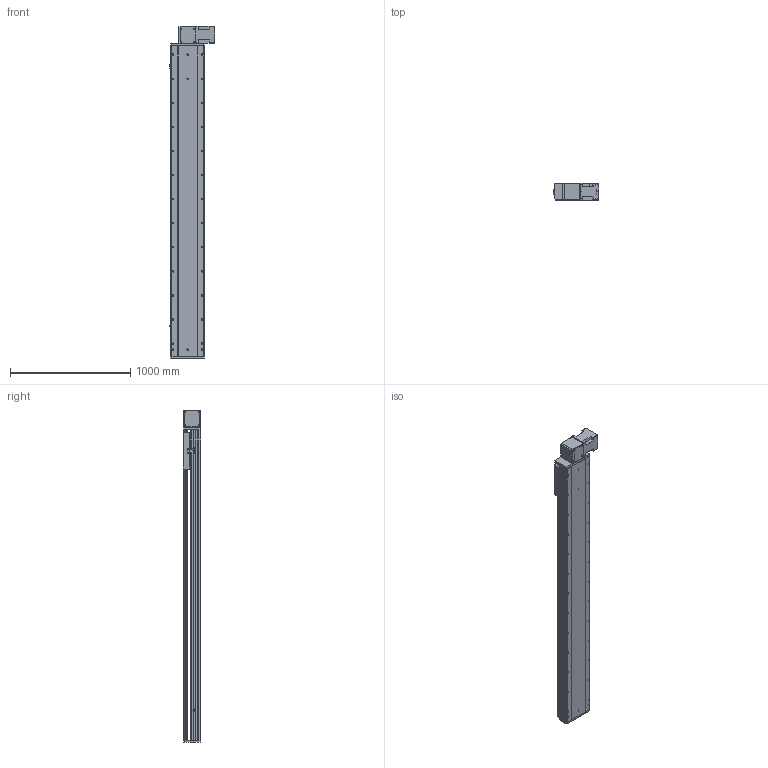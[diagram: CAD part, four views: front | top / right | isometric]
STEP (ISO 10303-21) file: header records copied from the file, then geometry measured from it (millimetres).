
FILE_DESCRIPTION (( 'STEP AP214' ), '1' );
FILE_NAME ('RTB28S-XX-2150-BL-M100-XX-C4.STEP', '2025-12-22T02:28:27', ( '' ), ( '' ), 'SwSTEP 2.0', 'SolidWorks 2018', '' );
FILE_SCHEMA (( 'AUTOMOTIVE_DESIGN' ));
Length unit declared in the file: millimetre
Products named in the file (4): RTB28S-XX-2150-BL-M100-XX-C4; RTB28S-GY-008^RTB28S-XX-XX-BL-M100-XX-C4; RTB28S-GY-004^RTB28S-XX-XX-BL-M100-XX-C4; RTB28S-GY-011^RTB28S-XX-XX-BL-M100-XX-C4
Assembly tree (3 placements, depth 2):
  RTB28S-XX-2150-BL-M100-XX-C4
    RTB28S-GY-011^RTB28S-XX-XX-BL-M100-XX-C4
    RTB28S-GY-004^RTB28S-XX-XX-BL-M100-XX-C4
    RTB28S-GY-008^RTB28S-XX-XX-BL-M100-XX-C4
Bounding box: 380.7 x 145 x 2757 mm (x, y, z)
Volume: 47717795.6 mm3; surface area: 4497191.5 mm2
Topology: 3 solids, 4 shells, 848 faces, 2268 edges, 1448 vertices
Faces by surface type: cylinder 407, plane 357, cone 80, torus 4
Entity records: 32429 total; most frequent: CARTESIAN_POINT 5902, DIRECTION 4818, ORIENTED_EDGE 4472, EDGE_CURVE 2236, AXIS2_PLACEMENT_3D 1764, VERTEX_POINT 1448, VECTOR 1290, LINE 1290
